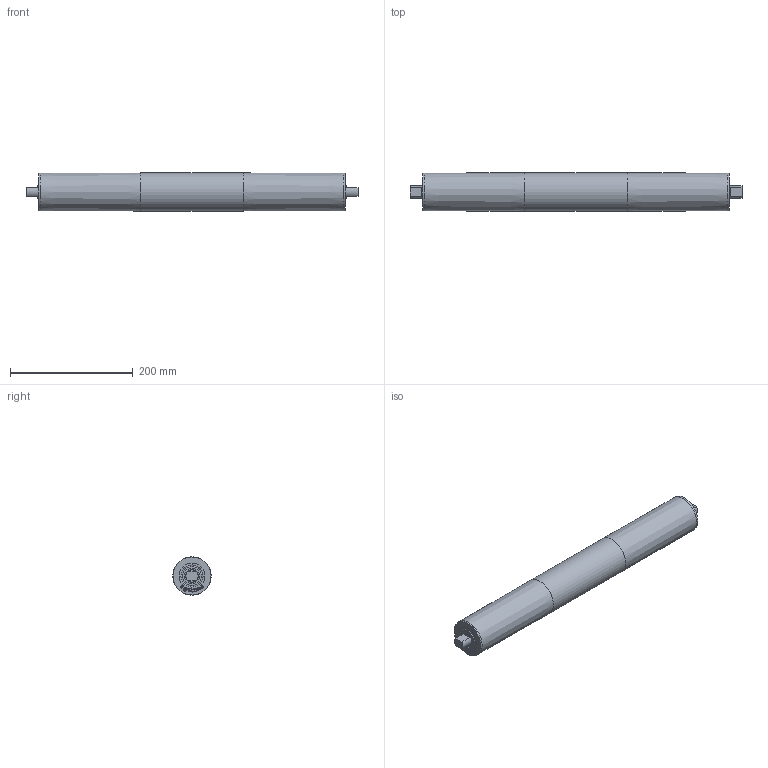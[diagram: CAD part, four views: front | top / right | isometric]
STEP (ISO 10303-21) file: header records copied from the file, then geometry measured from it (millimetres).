
FILE_DESCRIPTION(/* description */ (''),/* implementation_level */ '2;1');
FILE_NAME(/* name */ 'C:\WF_Ellegaard\Designs\00 standart komponenter\Tromlemotor\Scandrive S\Ø60\Scandrive S Ø60 RL500.stp',/* time_stamp */ '2017-04-19T17:54:33+02:00',/* author */ ('guh'),/* organization */ (''),/* preprocessor_version */ 'ST-DEVELOPER v15.6',/* originating_system */ 'Autodesk Inventor 2015',/* authorisation */ '');
FILE_SCHEMA (('AUTOMOTIVE_DESIGN { 1 0 10303 214 3 1 1 }'));
Length unit declared in the file: millimetre
Products named in the file (1): Scandrive S Ø60 RL500
Bounding box: 541 x 62.5 x 62.5 mm (x, y, z)
Volume: 361027.2 mm3; surface area: 197086.4 mm2
Topology: 1 solids, 2 shells, 454 faces, 1186 edges, 790 vertices
Faces by surface type: plane 236, bspline 196, cylinder 16, cone 4, torus 2
Full cylindrical faces by diameter (mm): 20 x2, 26 x2, 26.02 x2, 41.98 x2, 42 x2, 57 x1, 61.498 x2, 61.5 x2, 62.5 x1
Entity records: 14806 total; most frequent: CARTESIAN_POINT 4953, ORIENTED_EDGE 2324, DIRECTION 1336, EDGE_CURVE 1162, VERTEX_POINT 788, LINE 722, VECTOR 722, EDGE_LOOP 530
